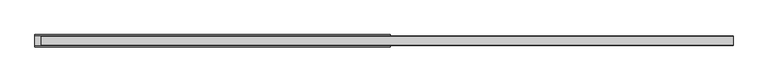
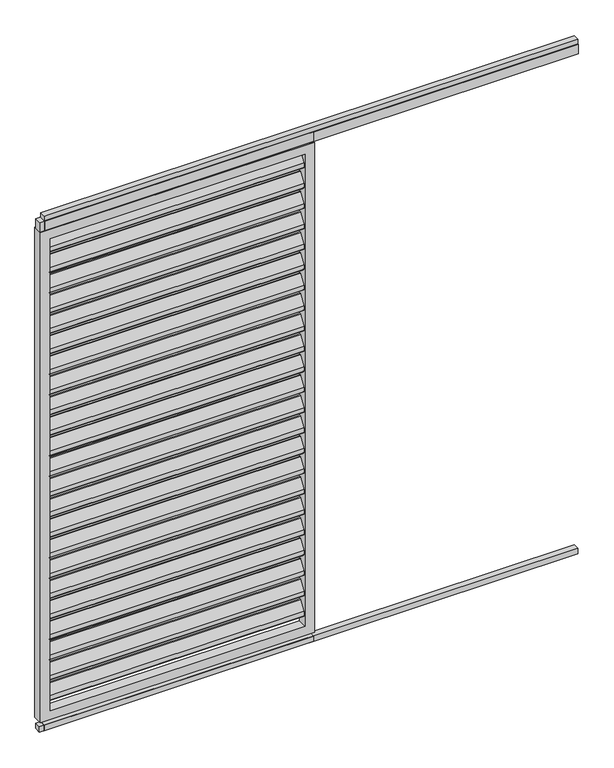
"""IFC4 building model written with IfcOpenShell, lengths in millimetres: proxy geometry, Renson_Algarve_Loggia_Paro_Aluminium : Renson_Algarve_Loggia_Paro_Aluminium."""

from ifc_helpers import new_model, si_unit, point, frame, frame_2d, origin, origin_with_axes, place, context, project, spatial, polyline, circle_curve, trimmed, segment, composite_curve, outline, extrude, source, transform, mapped, element, save


def generic_models_cf198cd7(model_context):
    return source(origin(), model_context, "Body", "SweptSolid", [
        extrude(outline(composite_curve([segment(trimmed(circle_curve(frame_2d((12.6675921, 2162.6587719)), 3.0), [point((10.1515804, 2164.292689))], [point((15.6675921, 2162.6587719))], False, "CARTESIAN"), True, "CONTINUOUS"), segment(polyline([(15.6675921, 2162.6587719), (15.6675921, 2144.2979873)]), True, "CONTINUOUS"), segment(trimmed(circle_curve(frame_2d((12.6675921, 2144.2979873)), 3.0), [point((15.6675921, 2144.2979873))], [point((15.1836038, 2142.6640702))], False, "CARTESIAN"), True, "CONTINUOUS"), segment(polyline([(15.1836038, 2142.6640702), (-8.8163962, 2105.707311)]), True, "CONTINUOUS"), segment(trimmed(circle_curve(frame_2d((-11.3324079, 2107.3412281)), 3.0), [point((-8.8163962, 2105.707311))], [point((-14.3324079, 2107.3412281))], False, "CARTESIAN"), True, "CONTINUOUS"), segment(polyline([(-14.3324079, 2107.3412281), (-14.3324079, 2126.5906532), (10.1515804, 2164.292689)]), True, "CONTINUOUS")], self_intersect=False)), frame((-532.5, 0.0, 0.0), z_axis=(1.0, 0.0, 0.0), x_axis=(0.0, 1.0, 0.0)), (0.0, 0.0, 1.0), 1065.0),
        extrude(outline(composite_curve([segment(trimmed(circle_curve(frame_2d((12.6675921, 2072.6587719)), 3.0), [point((10.1515804, 2074.292689))], [point((15.6675921, 2072.6587719))], False, "CARTESIAN"), True, "CONTINUOUS"), segment(polyline([(15.6675921, 2072.6587719), (15.6675921, 2054.2979873)]), True, "CONTINUOUS"), segment(trimmed(circle_curve(frame_2d((12.6675921, 2054.2979873)), 3.0), [point((15.6675921, 2054.2979873))], [point((15.1836038, 2052.6640702))], False, "CARTESIAN"), True, "CONTINUOUS"), segment(polyline([(15.1836038, 2052.6640702), (-8.8163962, 2015.707311)]), True, "CONTINUOUS"), segment(trimmed(circle_curve(frame_2d((-11.3324079, 2017.3412281)), 3.0), [point((-8.8163962, 2015.707311))], [point((-14.3324079, 2017.3412281))], False, "CARTESIAN"), True, "CONTINUOUS"), segment(polyline([(-14.3324079, 2017.3412281), (-14.3324079, 2036.5906532), (10.1515804, 2074.292689)]), True, "CONTINUOUS")], self_intersect=False)), frame((-532.5, 0.0, 0.0), z_axis=(1.0, 0.0, 0.0), x_axis=(0.0, 1.0, 0.0)), (0.0, 0.0, 1.0), 1065.0),
        extrude(outline(composite_curve([segment(trimmed(circle_curve(frame_2d((12.6675921, 1982.6587719)), 3.0), [point((10.1515804, 1984.292689))], [point((15.6675921, 1982.6587719))], False, "CARTESIAN"), True, "CONTINUOUS"), segment(polyline([(15.6675921, 1982.6587719), (15.6675921, 1964.2979873)]), True, "CONTINUOUS"), segment(trimmed(circle_curve(frame_2d((12.6675921, 1964.2979873)), 3.0), [point((15.6675921, 1964.2979873))], [point((15.1836038, 1962.6640702))], False, "CARTESIAN"), True, "CONTINUOUS"), segment(polyline([(15.1836038, 1962.6640702), (-8.8163962, 1925.707311)]), True, "CONTINUOUS"), segment(trimmed(circle_curve(frame_2d((-11.3324079, 1927.3412281)), 3.0), [point((-8.8163962, 1925.707311))], [point((-14.3324079, 1927.3412281))], False, "CARTESIAN"), True, "CONTINUOUS"), segment(polyline([(-14.3324079, 1927.3412281), (-14.3324079, 1946.5906532), (10.1515804, 1984.292689)]), True, "CONTINUOUS")], self_intersect=False)), frame((-532.5, 0.0, 0.0), z_axis=(1.0, 0.0, 0.0), x_axis=(0.0, 1.0, 0.0)), (0.0, 0.0, 1.0), 1065.0),
        extrude(outline(composite_curve([segment(trimmed(circle_curve(frame_2d((12.6675921, 1892.6587719)), 3.0), [point((10.1515804, 1894.292689))], [point((15.6675921, 1892.6587719))], False, "CARTESIAN"), True, "CONTINUOUS"), segment(polyline([(15.6675921, 1892.6587719), (15.6675921, 1874.2979873)]), True, "CONTINUOUS"), segment(trimmed(circle_curve(frame_2d((12.6675921, 1874.2979873)), 3.0), [point((15.6675921, 1874.2979873))], [point((15.1836038, 1872.6640702))], False, "CARTESIAN"), True, "CONTINUOUS"), segment(polyline([(15.1836038, 1872.6640702), (-8.8163962, 1835.707311)]), True, "CONTINUOUS"), segment(trimmed(circle_curve(frame_2d((-11.3324079, 1837.3412281)), 3.0), [point((-8.8163962, 1835.707311))], [point((-14.3324079, 1837.3412281))], False, "CARTESIAN"), True, "CONTINUOUS"), segment(polyline([(-14.3324079, 1837.3412281), (-14.3324079, 1856.5906532), (10.1515804, 1894.292689)]), True, "CONTINUOUS")], self_intersect=False)), frame((-532.5, 0.0, 0.0), z_axis=(1.0, 0.0, 0.0), x_axis=(0.0, 1.0, 0.0)), (0.0, 0.0, 1.0), 1065.0),
        extrude(outline(composite_curve([segment(trimmed(circle_curve(frame_2d((12.6675921, 1802.6587719)), 3.0), [point((10.1515804, 1804.292689))], [point((15.6675921, 1802.6587719))], False, "CARTESIAN"), True, "CONTINUOUS"), segment(polyline([(15.6675921, 1802.6587719), (15.6675921, 1784.2979873)]), True, "CONTINUOUS"), segment(trimmed(circle_curve(frame_2d((12.6675921, 1784.2979873)), 3.0), [point((15.6675921, 1784.2979873))], [point((15.1836038, 1782.6640702))], False, "CARTESIAN"), True, "CONTINUOUS"), segment(polyline([(15.1836038, 1782.6640702), (-8.8163962, 1745.707311)]), True, "CONTINUOUS"), segment(trimmed(circle_curve(frame_2d((-11.3324079, 1747.3412281)), 3.0), [point((-8.8163962, 1745.707311))], [point((-14.3324079, 1747.3412281))], False, "CARTESIAN"), True, "CONTINUOUS"), segment(polyline([(-14.3324079, 1747.3412281), (-14.3324079, 1766.5906532), (10.1515804, 1804.292689)]), True, "CONTINUOUS")], self_intersect=False)), frame((-532.5, 0.0, 0.0), z_axis=(1.0, 0.0, 0.0), x_axis=(0.0, 1.0, 0.0)), (0.0, 0.0, 1.0), 1065.0),
        extrude(outline(composite_curve([segment(trimmed(circle_curve(frame_2d((12.6675921, 1712.6587719)), 3.0), [point((10.1515804, 1714.292689))], [point((15.6675921, 1712.6587719))], False, "CARTESIAN"), True, "CONTINUOUS"), segment(polyline([(15.6675921, 1712.6587719), (15.6675921, 1694.2979873)]), True, "CONTINUOUS"), segment(trimmed(circle_curve(frame_2d((12.6675921, 1694.2979873)), 3.0), [point((15.6675921, 1694.2979873))], [point((15.1836038, 1692.6640702))], False, "CARTESIAN"), True, "CONTINUOUS"), segment(polyline([(15.1836038, 1692.6640702), (-8.8163962, 1655.707311)]), True, "CONTINUOUS"), segment(trimmed(circle_curve(frame_2d((-11.3324079, 1657.3412281)), 3.0), [point((-8.8163962, 1655.707311))], [point((-14.3324079, 1657.3412281))], False, "CARTESIAN"), True, "CONTINUOUS"), segment(polyline([(-14.3324079, 1657.3412281), (-14.3324079, 1676.5906532), (10.1515804, 1714.292689)]), True, "CONTINUOUS")], self_intersect=False)), frame((-532.5, 0.0, 0.0), z_axis=(1.0, 0.0, 0.0), x_axis=(0.0, 1.0, 0.0)), (0.0, 0.0, 1.0), 1065.0),
        extrude(outline(composite_curve([segment(trimmed(circle_curve(frame_2d((12.6675921, 1622.6587719)), 3.0), [point((10.1515804, 1624.292689))], [point((15.6675921, 1622.6587719))], False, "CARTESIAN"), True, "CONTINUOUS"), segment(polyline([(15.6675921, 1622.6587719), (15.6675921, 1604.2979873)]), True, "CONTINUOUS"), segment(trimmed(circle_curve(frame_2d((12.6675921, 1604.2979873)), 3.0), [point((15.6675921, 1604.2979873))], [point((15.1836038, 1602.6640702))], False, "CARTESIAN"), True, "CONTINUOUS"), segment(polyline([(15.1836038, 1602.6640702), (-8.8163962, 1565.707311)]), True, "CONTINUOUS"), segment(trimmed(circle_curve(frame_2d((-11.3324079, 1567.3412281)), 3.0), [point((-8.8163962, 1565.707311))], [point((-14.3324079, 1567.3412281))], False, "CARTESIAN"), True, "CONTINUOUS"), segment(polyline([(-14.3324079, 1567.3412281), (-14.3324079, 1586.5906532), (10.1515804, 1624.292689)]), True, "CONTINUOUS")], self_intersect=False)), frame((-532.5, 0.0, 0.0), z_axis=(1.0, 0.0, 0.0), x_axis=(0.0, 1.0, 0.0)), (0.0, 0.0, 1.0), 1065.0),
        extrude(outline(composite_curve([segment(trimmed(circle_curve(frame_2d((12.6675921, 1532.6587719)), 3.0), [point((10.1515804, 1534.292689))], [point((15.6675921, 1532.6587719))], False, "CARTESIAN"), True, "CONTINUOUS"), segment(polyline([(15.6675921, 1532.6587719), (15.6675921, 1514.2979873)]), True, "CONTINUOUS"), segment(trimmed(circle_curve(frame_2d((12.6675921, 1514.2979873)), 3.0), [point((15.6675921, 1514.2979873))], [point((15.1836038, 1512.6640702))], False, "CARTESIAN"), True, "CONTINUOUS"), segment(polyline([(15.1836038, 1512.6640702), (-8.8163962, 1475.707311)]), True, "CONTINUOUS"), segment(trimmed(circle_curve(frame_2d((-11.3324079, 1477.3412281)), 3.0), [point((-8.8163962, 1475.707311))], [point((-14.3324079, 1477.3412281))], False, "CARTESIAN"), True, "CONTINUOUS"), segment(polyline([(-14.3324079, 1477.3412281), (-14.3324079, 1496.5906532), (10.1515804, 1534.292689)]), True, "CONTINUOUS")], self_intersect=False)), frame((-532.5, 0.0, 0.0), z_axis=(1.0, 0.0, 0.0), x_axis=(0.0, 1.0, 0.0)), (0.0, 0.0, 1.0), 1065.0),
        extrude(outline(composite_curve([segment(trimmed(circle_curve(frame_2d((12.6675921, 1442.6587719)), 3.0), [point((10.1515804, 1444.292689))], [point((15.6675921, 1442.6587719))], False, "CARTESIAN"), True, "CONTINUOUS"), segment(polyline([(15.6675921, 1442.6587719), (15.6675921, 1424.2979873)]), True, "CONTINUOUS"), segment(trimmed(circle_curve(frame_2d((12.6675921, 1424.2979873)), 3.0), [point((15.6675921, 1424.2979873))], [point((15.1836038, 1422.6640702))], False, "CARTESIAN"), True, "CONTINUOUS"), segment(polyline([(15.1836038, 1422.6640702), (-8.8163962, 1385.707311)]), True, "CONTINUOUS"), segment(trimmed(circle_curve(frame_2d((-11.3324079, 1387.3412281)), 3.0), [point((-8.8163962, 1385.707311))], [point((-14.3324079, 1387.3412281))], False, "CARTESIAN"), True, "CONTINUOUS"), segment(polyline([(-14.3324079, 1387.3412281), (-14.3324079, 1406.5906532), (10.1515804, 1444.292689)]), True, "CONTINUOUS")], self_intersect=False)), frame((-532.5, 0.0, 0.0), z_axis=(1.0, 0.0, 0.0), x_axis=(0.0, 1.0, 0.0)), (0.0, 0.0, 1.0), 1065.0),
        extrude(outline(composite_curve([segment(trimmed(circle_curve(frame_2d((12.6675921, 1352.6587719)), 3.0), [point((10.1515804, 1354.292689))], [point((15.6675921, 1352.6587719))], False, "CARTESIAN"), True, "CONTINUOUS"), segment(polyline([(15.6675921, 1352.6587719), (15.6675921, 1334.2979873)]), True, "CONTINUOUS"), segment(trimmed(circle_curve(frame_2d((12.6675921, 1334.2979873)), 3.0), [point((15.6675921, 1334.2979873))], [point((15.1836038, 1332.6640702))], False, "CARTESIAN"), True, "CONTINUOUS"), segment(polyline([(15.1836038, 1332.6640702), (-8.8163962, 1295.707311)]), True, "CONTINUOUS"), segment(trimmed(circle_curve(frame_2d((-11.3324079, 1297.3412281)), 3.0), [point((-8.8163962, 1295.707311))], [point((-14.3324079, 1297.3412281))], False, "CARTESIAN"), True, "CONTINUOUS"), segment(polyline([(-14.3324079, 1297.3412281), (-14.3324079, 1316.5906532), (10.1515804, 1354.292689)]), True, "CONTINUOUS")], self_intersect=False)), frame((-532.5, 0.0, 0.0), z_axis=(1.0, 0.0, 0.0), x_axis=(0.0, 1.0, 0.0)), (0.0, 0.0, 1.0), 1065.0),
        extrude(outline(composite_curve([segment(trimmed(circle_curve(frame_2d((12.6675921, 1262.6587719)), 3.0), [point((10.1515804, 1264.292689))], [point((15.6675921, 1262.6587719))], False, "CARTESIAN"), True, "CONTINUOUS"), segment(polyline([(15.6675921, 1262.6587719), (15.6675921, 1244.2979873)]), True, "CONTINUOUS"), segment(trimmed(circle_curve(frame_2d((12.6675921, 1244.2979873)), 3.0), [point((15.6675921, 1244.2979873))], [point((15.1836038, 1242.6640702))], False, "CARTESIAN"), True, "CONTINUOUS"), segment(polyline([(15.1836038, 1242.6640702), (-8.8163962, 1205.707311)]), True, "CONTINUOUS"), segment(trimmed(circle_curve(frame_2d((-11.3324079, 1207.3412281)), 3.0), [point((-8.8163962, 1205.707311))], [point((-14.3324079, 1207.3412281))], False, "CARTESIAN"), True, "CONTINUOUS"), segment(polyline([(-14.3324079, 1207.3412281), (-14.3324079, 1226.5906532), (10.1515804, 1264.292689)]), True, "CONTINUOUS")], self_intersect=False)), frame((-532.5, 0.0, 0.0), z_axis=(1.0, 0.0, 0.0), x_axis=(0.0, 1.0, 0.0)), (0.0, 0.0, 1.0), 1065.0),
        extrude(outline(composite_curve([segment(trimmed(circle_curve(frame_2d((12.6675921, 1172.6587719)), 3.0), [point((10.1515804, 1174.292689))], [point((15.6675921, 1172.6587719))], False, "CARTESIAN"), True, "CONTINUOUS"), segment(polyline([(15.6675921, 1172.6587719), (15.6675921, 1154.2979873)]), True, "CONTINUOUS"), segment(trimmed(circle_curve(frame_2d((12.6675921, 1154.2979873)), 3.0), [point((15.6675921, 1154.2979873))], [point((15.1836038, 1152.6640702))], False, "CARTESIAN"), True, "CONTINUOUS"), segment(polyline([(15.1836038, 1152.6640702), (-8.8163962, 1115.707311)]), True, "CONTINUOUS"), segment(trimmed(circle_curve(frame_2d((-11.3324079, 1117.3412281)), 3.0), [point((-8.8163962, 1115.707311))], [point((-14.3324079, 1117.3412281))], False, "CARTESIAN"), True, "CONTINUOUS"), segment(polyline([(-14.3324079, 1117.3412281), (-14.3324079, 1136.5906532), (10.1515804, 1174.292689)]), True, "CONTINUOUS")], self_intersect=False)), frame((-532.5, 0.0, 0.0), z_axis=(1.0, 0.0, 0.0), x_axis=(0.0, 1.0, 0.0)), (0.0, 0.0, 1.0), 1065.0),
        extrude(outline(composite_curve([segment(trimmed(circle_curve(frame_2d((12.6675921, 1082.6587719)), 3.0), [point((10.1515804, 1084.292689))], [point((15.6675921, 1082.6587719))], False, "CARTESIAN"), True, "CONTINUOUS"), segment(polyline([(15.6675921, 1082.6587719), (15.6675921, 1064.2979873)]), True, "CONTINUOUS"), segment(trimmed(circle_curve(frame_2d((12.6675921, 1064.2979873)), 3.0), [point((15.6675921, 1064.2979873))], [point((15.1836038, 1062.6640702))], False, "CARTESIAN"), True, "CONTINUOUS"), segment(polyline([(15.1836038, 1062.6640702), (-8.8163962, 1025.707311)]), True, "CONTINUOUS"), segment(trimmed(circle_curve(frame_2d((-11.3324079, 1027.3412281)), 3.0), [point((-8.8163962, 1025.707311))], [point((-14.3324079, 1027.3412281))], False, "CARTESIAN"), True, "CONTINUOUS"), segment(polyline([(-14.3324079, 1027.3412281), (-14.3324079, 1046.5906532), (10.1515804, 1084.292689)]), True, "CONTINUOUS")], self_intersect=False)), frame((-532.5, 0.0, 0.0), z_axis=(1.0, 0.0, 0.0), x_axis=(0.0, 1.0, 0.0)), (0.0, 0.0, 1.0), 1065.0),
        extrude(outline(composite_curve([segment(trimmed(circle_curve(frame_2d((12.6675921, 992.6587719)), 3.0), [point((10.1515804, 994.292689))], [point((15.6675921, 992.6587719))], False, "CARTESIAN"), True, "CONTINUOUS"), segment(polyline([(15.6675921, 992.6587719), (15.6675921, 974.2979873)]), True, "CONTINUOUS"), segment(trimmed(circle_curve(frame_2d((12.6675921, 974.2979873)), 3.0), [point((15.6675921, 974.2979873))], [point((15.1836038, 972.6640702))], False, "CARTESIAN"), True, "CONTINUOUS"), segment(polyline([(15.1836038, 972.6640702), (-8.8163962, 935.707311)]), True, "CONTINUOUS"), segment(trimmed(circle_curve(frame_2d((-11.3324079, 937.3412281)), 3.0), [point((-8.8163962, 935.707311))], [point((-14.3324079, 937.3412281))], False, "CARTESIAN"), True, "CONTINUOUS"), segment(polyline([(-14.3324079, 937.3412281), (-14.3324079, 956.5906532), (10.1515804, 994.292689)]), True, "CONTINUOUS")], self_intersect=False)), frame((-532.5, 0.0, 0.0), z_axis=(1.0, 0.0, 0.0), x_axis=(0.0, 1.0, 0.0)), (0.0, 0.0, 1.0), 1065.0),
        extrude(outline(composite_curve([segment(trimmed(circle_curve(frame_2d((12.6675921, 902.6587719)), 3.0), [point((10.1515804, 904.292689))], [point((15.6675921, 902.6587719))], False, "CARTESIAN"), True, "CONTINUOUS"), segment(polyline([(15.6675921, 902.6587719), (15.6675921, 884.2979873)]), True, "CONTINUOUS"), segment(trimmed(circle_curve(frame_2d((12.6675921, 884.2979873)), 3.0), [point((15.6675921, 884.2979873))], [point((15.1836038, 882.6640702))], False, "CARTESIAN"), True, "CONTINUOUS"), segment(polyline([(15.1836038, 882.6640702), (-8.8163962, 845.707311)]), True, "CONTINUOUS"), segment(trimmed(circle_curve(frame_2d((-11.3324079, 847.3412281)), 3.0), [point((-8.8163962, 845.707311))], [point((-14.3324079, 847.3412281))], False, "CARTESIAN"), True, "CONTINUOUS"), segment(polyline([(-14.3324079, 847.3412281), (-14.3324079, 866.5906532), (10.1515804, 904.292689)]), True, "CONTINUOUS")], self_intersect=False)), frame((-532.5, 0.0, 0.0), z_axis=(1.0, 0.0, 0.0), x_axis=(0.0, 1.0, 0.0)), (0.0, 0.0, 1.0), 1065.0),
        extrude(outline(composite_curve([segment(trimmed(circle_curve(frame_2d((12.6675921, 812.6587719)), 3.0), [point((10.1515804, 814.292689))], [point((15.6675921, 812.6587719))], False, "CARTESIAN"), True, "CONTINUOUS"), segment(polyline([(15.6675921, 812.6587719), (15.6675921, 794.2979873)]), True, "CONTINUOUS"), segment(trimmed(circle_curve(frame_2d((12.6675921, 794.2979873)), 3.0), [point((15.6675921, 794.2979873))], [point((15.1836038, 792.6640702))], False, "CARTESIAN"), True, "CONTINUOUS"), segment(polyline([(15.1836038, 792.6640702), (-8.8163962, 755.707311)]), True, "CONTINUOUS"), segment(trimmed(circle_curve(frame_2d((-11.3324079, 757.3412281)), 3.0), [point((-8.8163962, 755.707311))], [point((-14.3324079, 757.3412281))], False, "CARTESIAN"), True, "CONTINUOUS"), segment(polyline([(-14.3324079, 757.3412281), (-14.3324079, 776.5906532), (10.1515804, 814.292689)]), True, "CONTINUOUS")], self_intersect=False)), frame((-532.5, 0.0, 0.0), z_axis=(1.0, 0.0, 0.0), x_axis=(0.0, 1.0, 0.0)), (0.0, 0.0, 1.0), 1065.0),
        extrude(outline(composite_curve([segment(trimmed(circle_curve(frame_2d((12.6675921, 722.6587719)), 3.0), [point((10.1515804, 724.292689))], [point((15.6675921, 722.6587719))], False, "CARTESIAN"), True, "CONTINUOUS"), segment(polyline([(15.6675921, 722.6587719), (15.6675921, 704.2979873)]), True, "CONTINUOUS"), segment(trimmed(circle_curve(frame_2d((12.6675921, 704.2979873)), 3.0), [point((15.6675921, 704.2979873))], [point((15.1836038, 702.6640702))], False, "CARTESIAN"), True, "CONTINUOUS"), segment(polyline([(15.1836038, 702.6640702), (-8.8163962, 665.707311)]), True, "CONTINUOUS"), segment(trimmed(circle_curve(frame_2d((-11.3324079, 667.3412281)), 3.0), [point((-8.8163962, 665.707311))], [point((-14.3324079, 667.3412281))], False, "CARTESIAN"), True, "CONTINUOUS"), segment(polyline([(-14.3324079, 667.3412281), (-14.3324079, 686.5906532), (10.1515804, 724.292689)]), True, "CONTINUOUS")], self_intersect=False)), frame((-532.5, 0.0, 0.0), z_axis=(1.0, 0.0, 0.0), x_axis=(0.0, 1.0, 0.0)), (0.0, 0.0, 1.0), 1065.0),
        extrude(outline(composite_curve([segment(trimmed(circle_curve(frame_2d((12.6675921, 632.6587719)), 3.0), [point((10.1515804, 634.292689))], [point((15.6675921, 632.6587719))], False, "CARTESIAN"), True, "CONTINUOUS"), segment(polyline([(15.6675921, 632.6587719), (15.6675921, 614.2979873)]), True, "CONTINUOUS"), segment(trimmed(circle_curve(frame_2d((12.6675921, 614.2979873)), 3.0), [point((15.6675921, 614.2979873))], [point((15.1836038, 612.6640702))], False, "CARTESIAN"), True, "CONTINUOUS"), segment(polyline([(15.1836038, 612.6640702), (-8.8163962, 575.707311)]), True, "CONTINUOUS"), segment(trimmed(circle_curve(frame_2d((-11.3324079, 577.3412281)), 3.0), [point((-8.8163962, 575.707311))], [point((-14.3324079, 577.3412281))], False, "CARTESIAN"), True, "CONTINUOUS"), segment(polyline([(-14.3324079, 577.3412281), (-14.3324079, 596.5906532), (10.1515804, 634.292689)]), True, "CONTINUOUS")], self_intersect=False)), frame((-532.5, 0.0, 0.0), z_axis=(1.0, 0.0, 0.0), x_axis=(0.0, 1.0, 0.0)), (0.0, 0.0, 1.0), 1065.0),
        extrude(outline(composite_curve([segment(trimmed(circle_curve(frame_2d((12.6675921, 542.6587719)), 3.0), [point((10.1515804, 544.292689))], [point((15.6675921, 542.6587719))], False, "CARTESIAN"), True, "CONTINUOUS"), segment(polyline([(15.6675921, 542.6587719), (15.6675921, 524.2979873)]), True, "CONTINUOUS"), segment(trimmed(circle_curve(frame_2d((12.6675921, 524.2979873)), 3.0), [point((15.6675921, 524.2979873))], [point((15.1836038, 522.6640702))], False, "CARTESIAN"), True, "CONTINUOUS"), segment(polyline([(15.1836038, 522.6640702), (-8.8163962, 485.707311)]), True, "CONTINUOUS"), segment(trimmed(circle_curve(frame_2d((-11.3324079, 487.3412281)), 3.0), [point((-8.8163962, 485.707311))], [point((-14.3324079, 487.3412281))], False, "CARTESIAN"), True, "CONTINUOUS"), segment(polyline([(-14.3324079, 487.3412281), (-14.3324079, 506.5906532), (10.1515804, 544.292689)]), True, "CONTINUOUS")], self_intersect=False)), frame((-532.5, 0.0, 0.0), z_axis=(1.0, 0.0, 0.0), x_axis=(0.0, 1.0, 0.0)), (0.0, 0.0, 1.0), 1065.0),
        extrude(outline(composite_curve([segment(trimmed(circle_curve(frame_2d((12.6675921, 452.6587719)), 3.0), [point((10.1515804, 454.292689))], [point((15.6675921, 452.6587719))], False, "CARTESIAN"), True, "CONTINUOUS"), segment(polyline([(15.6675921, 452.6587719), (15.6675921, 434.2979873)]), True, "CONTINUOUS"), segment(trimmed(circle_curve(frame_2d((12.6675921, 434.2979873)), 3.0), [point((15.6675921, 434.2979873))], [point((15.1836038, 432.6640702))], False, "CARTESIAN"), True, "CONTINUOUS"), segment(polyline([(15.1836038, 432.6640702), (-8.8163962, 395.707311)]), True, "CONTINUOUS"), segment(trimmed(circle_curve(frame_2d((-11.3324079, 397.3412281)), 3.0), [point((-8.8163962, 395.707311))], [point((-14.3324079, 397.3412281))], False, "CARTESIAN"), True, "CONTINUOUS"), segment(polyline([(-14.3324079, 397.3412281), (-14.3324079, 416.5906532), (10.1515804, 454.292689)]), True, "CONTINUOUS")], self_intersect=False)), frame((-532.5, 0.0, 0.0), z_axis=(1.0, 0.0, 0.0), x_axis=(0.0, 1.0, 0.0)), (0.0, 0.0, 1.0), 1065.0),
        extrude(outline(composite_curve([segment(trimmed(circle_curve(frame_2d((12.6675921, 362.6587719)), 3.0), [point((10.1515804, 364.292689))], [point((15.6675921, 362.6587719))], False, "CARTESIAN"), True, "CONTINUOUS"), segment(polyline([(15.6675921, 362.6587719), (15.6675921, 344.2979873)]), True, "CONTINUOUS"), segment(trimmed(circle_curve(frame_2d((12.6675921, 344.2979873)), 3.0), [point((15.6675921, 344.2979873))], [point((15.1836038, 342.6640702))], False, "CARTESIAN"), True, "CONTINUOUS"), segment(polyline([(15.1836038, 342.6640702), (-8.8163962, 305.707311)]), True, "CONTINUOUS"), segment(trimmed(circle_curve(frame_2d((-11.3324079, 307.3412281)), 3.0), [point((-8.8163962, 305.707311))], [point((-14.3324079, 307.3412281))], False, "CARTESIAN"), True, "CONTINUOUS"), segment(polyline([(-14.3324079, 307.3412281), (-14.3324079, 326.5906532), (10.1515804, 364.292689)]), True, "CONTINUOUS")], self_intersect=False)), frame((-532.5, 0.0, 0.0), z_axis=(1.0, 0.0, 0.0), x_axis=(0.0, 1.0, 0.0)), (0.0, 0.0, 1.0), 1065.0),
        extrude(outline(composite_curve([segment(trimmed(circle_curve(frame_2d((12.6675921, 272.6587719)), 3.0), [point((10.1515804, 274.292689))], [point((15.6675921, 272.6587719))], False, "CARTESIAN"), True, "CONTINUOUS"), segment(polyline([(15.6675921, 272.6587719), (15.6675921, 254.2979873)]), True, "CONTINUOUS"), segment(trimmed(circle_curve(frame_2d((12.6675921, 254.2979873)), 3.0), [point((15.6675921, 254.2979873))], [point((15.1836038, 252.6640702))], False, "CARTESIAN"), True, "CONTINUOUS"), segment(polyline([(15.1836038, 252.6640702), (-8.8163962, 215.707311)]), True, "CONTINUOUS"), segment(trimmed(circle_curve(frame_2d((-11.3324079, 217.3412281)), 3.0), [point((-8.8163962, 215.707311))], [point((-14.3324079, 217.3412281))], False, "CARTESIAN"), True, "CONTINUOUS"), segment(polyline([(-14.3324079, 217.3412281), (-14.3324079, 236.5906532), (10.1515804, 274.292689)]), True, "CONTINUOUS")], self_intersect=False)), frame((-532.5, 0.0, 0.0), z_axis=(1.0, 0.0, 0.0), x_axis=(0.0, 1.0, 0.0)), (0.0, 0.0, 1.0), 1065.0),
        extrude(outline(composite_curve([segment(trimmed(circle_curve(frame_2d((12.6675921, 182.6587719)), 3.0), [point((10.1515804, 184.292689))], [point((15.6675921, 182.6587719))], False, "CARTESIAN"), True, "CONTINUOUS"), segment(polyline([(15.6675921, 182.6587719), (15.6675921, 164.2979873)]), True, "CONTINUOUS"), segment(trimmed(circle_curve(frame_2d((12.6675921, 164.2979873)), 3.0), [point((15.6675921, 164.2979873))], [point((15.1836038, 162.6640702))], False, "CARTESIAN"), True, "CONTINUOUS"), segment(polyline([(15.1836038, 162.6640702), (-8.8163962, 125.707311)]), True, "CONTINUOUS"), segment(trimmed(circle_curve(frame_2d((-11.3324079, 127.3412281)), 3.0), [point((-8.8163962, 125.707311))], [point((-14.3324079, 127.3412281))], False, "CARTESIAN"), True, "CONTINUOUS"), segment(polyline([(-14.3324079, 127.3412281), (-14.3324079, 146.5906532), (10.1515804, 184.292689)]), True, "CONTINUOUS")], self_intersect=False)), frame((-532.5, 0.0, 0.0), z_axis=(1.0, 0.0, 0.0), x_axis=(0.0, 1.0, 0.0)), (0.0, 0.0, 1.0), 1065.0),
        extrude(outline(polyline([(1677.5, -13.0), (-552.5, -13.0), (-552.5, 14.0), (1677.5, 14.0), (1677.5, -13.0)])), frame((0.0, 0.0, 2250.0), z_axis=(0.0, 0.0, 1.0), x_axis=(1.0, 0.0, 0.0)), (0.0, 0.0, 1.0), 20.0),
        extrude(outline(polyline([(572.5, 15.0), (572.5, -15.0), (-552.5, -15.0), (-552.5, 15.0), (572.5, 15.0)])), frame((0.0, 0.0, 2207.7138321), z_axis=(0.0, 0.0, 1.0), x_axis=(1.0, 0.0, 0.0)), (0.0, 0.0, 1.0), 42.2861679),
        extrude(outline(polyline([(1677.5, 15.0), (1677.5, -15.0), (-572.5, -15.0), (-572.5, 15.0), (1677.5, 15.0)])), frame((0.0, 0.0, 2207.7138321), z_axis=(0.0, 0.0, 1.0), x_axis=(1.0, 0.0, 0.0)), (0.0, 0.0, 1.0), 42.2861679),
        extrude(outline(polyline([(572.5, -13.0), (-552.5, -13.0), (-552.5, 14.0), (572.5, 14.0), (572.5, -13.0)])), origin_with_axes(), (0.0, 0.0, 1.0), 23.0),
        extrude(outline(polyline([(1677.5, -13.0), (-572.5, -13.0), (-572.5, 14.0), (1677.5, 14.0), (1677.5, -13.0)])), origin_with_axes(), (0.0, 0.0, 1.0), 23.0),
        extrude(outline(polyline([(2207.7138321, -572.5), (45.0, -572.5), (45.0, 572.5), (2207.7138321, 572.5), (2207.7138321, -572.5)]), holes=[polyline([(2167.7138321, 532.5), (85.0, 532.5), (85.0, -532.5), (2167.7138321, -532.5), (2167.7138321, 532.5)])]), frame((0.0, -20.0, 0.0), z_axis=(0.0, 1.0, 0.0), x_axis=(0.0, 0.0, 1.0)), (0.0, 0.0, 1.0), 40.0),
    ])


if __name__ == "__main__":
    model = new_model("IFC4")
    model_context = context("Model", 3, world=origin())
    ifc_project = project(units=[si_unit("LENGTHUNIT", "METRE", prefix="MILLI")], contexts=[model_context])
    site = spatial("IfcSite", under=ifc_project)
    building = spatial("IfcBuilding", under=site)
    placement = place(None, origin())
    generic_models_shape = generic_models_cf198cd7(model_context)
    element("IfcBuildingElementProxy", 1, Name="Renson_Algarve_Loggia_Paro_Aluminium : Renson_Algarve_Loggia_Paro_Aluminium", ObjectType="Renson_Algarve_Loggia_Paro_Aluminium : Renson_Algarve_Loggia_Paro_Aluminium", at=placement, inside=building, context=model_context, shape_type="MappedRepresentation", body=[
        mapped(generic_models_shape, transform((0.0, 0.0, 0.0), x_axis=(1.0, 0.0, 0.0), y_axis=(0.0, 1.0, 0.0), z_axis=(0.0, 0.0, 1.0))),
    ])
    save(model, "model.ifc")
